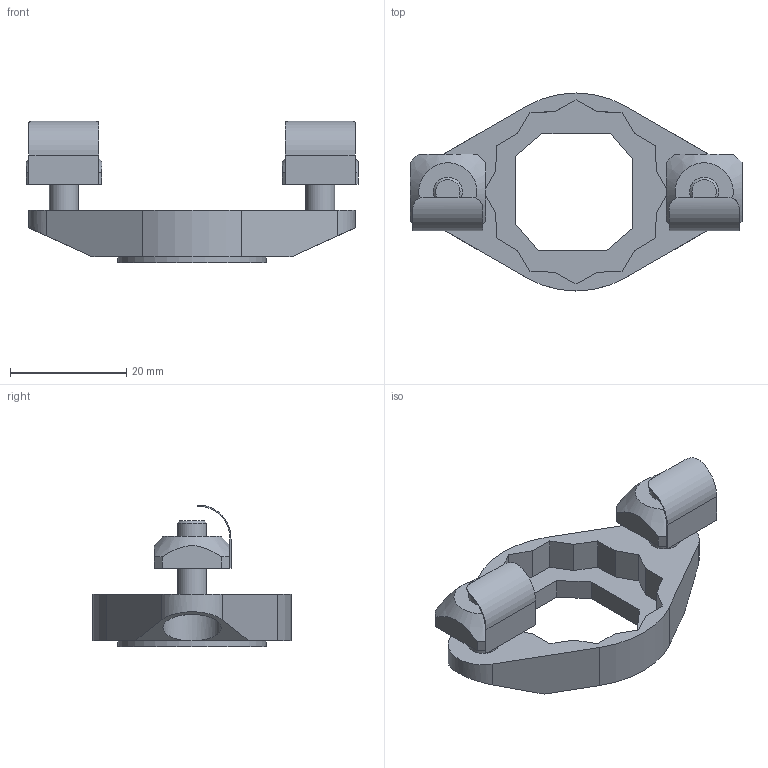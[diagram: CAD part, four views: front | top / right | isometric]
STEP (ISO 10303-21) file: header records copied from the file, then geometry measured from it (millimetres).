
FILE_DESCRIPTION((''),'2;1');
FILE_NAME('C:\Documents and Settings\Administrator\My Documents\Andys Backup Data\ANDY''S INVENTOR\INVENTOR LIBRARIES\MINITEC INVENTOR LIBRARIES\HANDLES LOCKS STOPS\A PACKED FILES\STEP FILES\21.1768 TWIST STOP.stp','2010-06-25T12:20:17',('Administrator'),(''),'Autodesk Inventor 2009','Autodesk Inventor 2009','');
FILE_SCHEMA(('AUTOMOTIVE_DESIGN { 1 0 10303 214 1 1 1 1 }'));
Length unit declared in the file: millimetre
Products named in the file (4): 21.1768 TWIST STOP; 21.1503 M5x16 C'SUNK; 21.1320_2 M5 SQUARE NUT POS FXG
Assembly tree (3 placements, depth 2):
  21.1768 TWIST STOP
    21.1768 TWIST STOP
    21.1320_2 M5 SQUARE NUT POS FXG  x2
  21.1503 M5x16 C'SUNK
Bounding box: 57 x 34 x 24.3 mm (x, y, z)
Volume: 6326 mm3; surface area: 6255.9 mm2
Topology: 5 solids, 5 shells, 121 faces, 312 edges, 203 vertices
Faces by surface type: plane 88, cylinder 23, cone 6, bspline 4
Full cylindrical faces by diameter (mm): 5 x4, 5.3 x2, 10 x4, 25.5 x1
Entity records: 2812 total; most frequent: CARTESIAN_POINT 610, ORIENTED_EDGE 426, DIRECTION 418, EDGE_CURVE 213, VECTOR 170, LINE 170, VERTEX_POINT 147, AXIS2_PLACEMENT_3D 124
